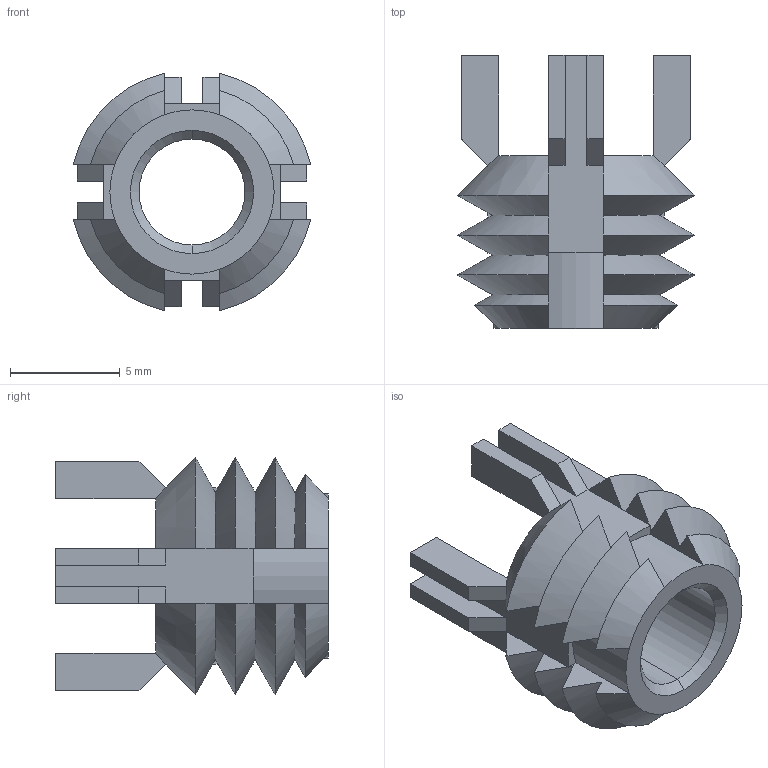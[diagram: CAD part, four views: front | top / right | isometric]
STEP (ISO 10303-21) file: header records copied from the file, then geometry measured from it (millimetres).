
FILE_DESCRIPTION (( 'STEP AP203' ), '1' );
FILE_NAME ('22024.W5331.step', '2020-01-04T21:55:32', ( '' ), ( '' ), 'SwSTEP 2.0', 'SolidWorks 2017', '' );
FILE_SCHEMA (( 'CONFIG_CONTROL_DESIGN' ));
Length unit declared in the file: millimetre
Products named in the file (1): 22024.W5331
Bounding box: 10.83 x 12.43 x 10.83 mm (x, y, z)
Volume: 392.1 mm3; surface area: 769.7 mm2
Topology: 1 solids, 1 shells, 132 faces, 330 edges, 200 vertices
Faces by surface type: plane 90, cone 36, cylinder 6
Entity records: 4011 total; most frequent: CARTESIAN_POINT 975, ORIENTED_EDGE 660, DIRECTION 544, EDGE_CURVE 330, VERTEX_POINT 200, AXIS2_PLACEMENT_3D 185, VECTOR 174, LINE 174
